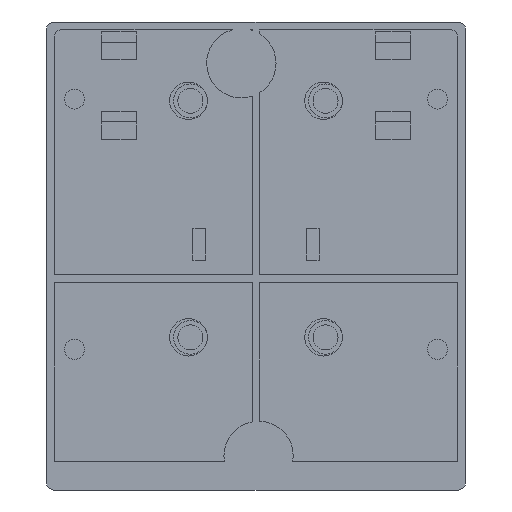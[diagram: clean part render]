
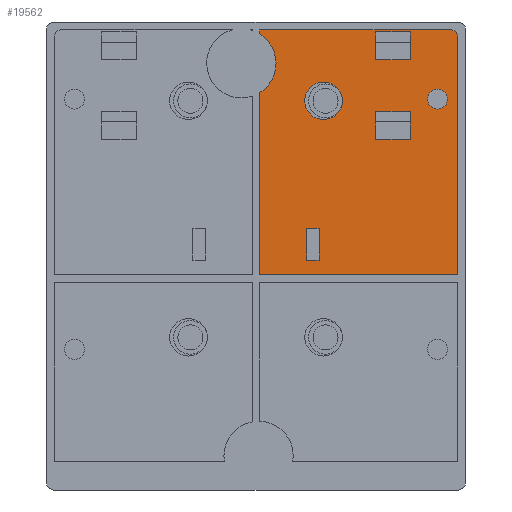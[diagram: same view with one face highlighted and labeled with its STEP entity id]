
A CAD part, front view. The second image highlights one B-rep face of the part: STEP entity #19562.
In plain terms, the highlighted planar face has unit normal (0, -1, 0).
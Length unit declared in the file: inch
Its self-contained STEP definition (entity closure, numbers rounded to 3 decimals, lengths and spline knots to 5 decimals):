
#1091=FACE_BOUND('',#2894,.T.);
#1092=FACE_BOUND('',#2895,.T.);
#1093=FACE_BOUND('',#2896,.T.);
#1094=FACE_BOUND('',#2897,.T.);
#1095=FACE_BOUND('',#2898,.T.);
#1204=CIRCLE('',#20853,0.06);
#1207=CIRCLE('',#20884,0.15);
#1213=CIRCLE('',#20896,0.277);
#1215=CIRCLE('',#20902,0.08);
#1758=FACE_OUTER_BOUND('',#2893,.T.);
#2893=EDGE_LOOP('',(#13192,#13193,#13194,#13195,#13196,#13197,#13198));
#2894=EDGE_LOOP('',(#13199,#13200,#13201,#13202));
#2895=EDGE_LOOP('',(#13203,#13204,#13205,#13206));
#2896=EDGE_LOOP('',(#13207,#13208,#13209,#13210));
#2897=EDGE_LOOP('',(#13211));
#2898=EDGE_LOOP('',(#13212));
#4116=LINE('',#26976,#6121);
#4121=LINE('',#26990,#6126);
#4123=LINE('',#26994,#6128);
#4125=LINE('',#26998,#6130);
#4127=LINE('',#27001,#6132);
#4129=LINE('',#27006,#6134);
#4132=LINE('',#27011,#6137);
#4134=LINE('',#27015,#6139);
#4135=LINE('',#27017,#6140);
#4145=LINE('',#27038,#6150);
#4148=LINE('',#27043,#6153);
#4150=LINE('',#27047,#6155);
#4151=LINE('',#27049,#6156);
#4186=LINE('',#27136,#6191);
#4187=LINE('',#27137,#6192);
#4188=LINE('',#27139,#6193);
#4189=LINE('',#27140,#6194);
#6121=VECTOR('',#22280,0.3937);
#6126=VECTOR('',#22295,0.3937);
#6128=VECTOR('',#22299,0.3937);
#6130=VECTOR('',#22303,0.3937);
#6132=VECTOR('',#22307,0.3937);
#6134=VECTOR('',#22311,0.3937);
#6137=VECTOR('',#22316,0.3937);
#6139=VECTOR('',#22320,0.3937);
#6140=VECTOR('',#22323,0.3937);
#6150=VECTOR('',#22343,0.3937);
#6153=VECTOR('',#22348,0.3937);
#6155=VECTOR('',#22352,0.3937);
#6156=VECTOR('',#22355,0.3937);
#6191=VECTOR('',#22444,0.3937);
#6192=VECTOR('',#22445,0.3937);
#6193=VECTOR('',#22446,0.3937);
#6194=VECTOR('',#22447,0.3937);
#8138=VERTEX_POINT('',#26969);
#8139=VERTEX_POINT('',#26970);
#8140=VERTEX_POINT('',#26975);
#8143=VERTEX_POINT('',#26987);
#8144=VERTEX_POINT('',#26989);
#8145=VERTEX_POINT('',#26993);
#8146=VERTEX_POINT('',#26997);
#8147=VERTEX_POINT('',#27003);
#8148=VERTEX_POINT('',#27005);
#8149=VERTEX_POINT('',#27009);
#8150=VERTEX_POINT('',#27013);
#8155=VERTEX_POINT('',#27035);
#8156=VERTEX_POINT('',#27037);
#8157=VERTEX_POINT('',#27041);
#8158=VERTEX_POINT('',#27045);
#8167=VERTEX_POINT('',#27083);
#8176=VERTEX_POINT('',#27113);
#8177=VERTEX_POINT('',#27115);
#8183=VERTEX_POINT('',#27135);
#8184=VERTEX_POINT('',#27138);
#8185=VERTEX_POINT('',#27141);
#10070=EDGE_CURVE('',#8138,#8139,#1204,.T.);
#10073=EDGE_CURVE('',#8138,#8140,#4116,.F.);
#10080=EDGE_CURVE('',#8144,#8143,#4121,.T.);
#10082=EDGE_CURVE('',#8145,#8144,#4123,.T.);
#10084=EDGE_CURVE('',#8146,#8145,#4125,.T.);
#10086=EDGE_CURVE('',#8143,#8146,#4127,.T.);
#10088=EDGE_CURVE('',#8148,#8147,#4129,.T.);
#10091=EDGE_CURVE('',#8147,#8149,#4132,.T.);
#10093=EDGE_CURVE('',#8149,#8150,#4134,.T.);
#10094=EDGE_CURVE('',#8150,#8148,#4135,.T.);
#10104=EDGE_CURVE('',#8156,#8155,#4145,.T.);
#10107=EDGE_CURVE('',#8155,#8157,#4148,.T.);
#10109=EDGE_CURVE('',#8157,#8158,#4150,.T.);
#10110=EDGE_CURVE('',#8158,#8156,#4151,.T.);
#10127=EDGE_CURVE('',#8167,#8167,#1207,.T.);
#10144=EDGE_CURVE('',#8176,#8177,#1213,.T.);
#10153=EDGE_CURVE('',#8183,#8139,#4186,.F.);
#10154=EDGE_CURVE('',#8183,#8176,#4187,.T.);
#10155=EDGE_CURVE('',#8177,#8184,#4188,.T.);
#10156=EDGE_CURVE('',#8184,#8140,#4189,.T.);
#10157=EDGE_CURVE('',#8185,#8185,#1215,.T.);
#13192=ORIENTED_EDGE('',*,*,#10070,.T.);
#13193=ORIENTED_EDGE('',*,*,#10153,.F.);
#13194=ORIENTED_EDGE('',*,*,#10154,.T.);
#13195=ORIENTED_EDGE('',*,*,#10144,.T.);
#13196=ORIENTED_EDGE('',*,*,#10155,.T.);
#13197=ORIENTED_EDGE('',*,*,#10156,.T.);
#13198=ORIENTED_EDGE('',*,*,#10073,.F.);
#13199=ORIENTED_EDGE('',*,*,#10080,.T.);
#13200=ORIENTED_EDGE('',*,*,#10086,.T.);
#13201=ORIENTED_EDGE('',*,*,#10084,.T.);
#13202=ORIENTED_EDGE('',*,*,#10082,.T.);
#13203=ORIENTED_EDGE('',*,*,#10088,.T.);
#13204=ORIENTED_EDGE('',*,*,#10091,.T.);
#13205=ORIENTED_EDGE('',*,*,#10093,.T.);
#13206=ORIENTED_EDGE('',*,*,#10094,.T.);
#13207=ORIENTED_EDGE('',*,*,#10104,.T.);
#13208=ORIENTED_EDGE('',*,*,#10107,.T.);
#13209=ORIENTED_EDGE('',*,*,#10109,.T.);
#13210=ORIENTED_EDGE('',*,*,#10110,.T.);
#13211=ORIENTED_EDGE('',*,*,#10127,.T.);
#13212=ORIENTED_EDGE('',*,*,#10157,.T.);
#18871=PLANE('',#20901);
#19562=ADVANCED_FACE('',(#1758,#1091,#1092,#1093,#1094,#1095),#18871,.F.);
#20853=AXIS2_PLACEMENT_3D('',#26971,#22274,#22275);
#20884=AXIS2_PLACEMENT_3D('',#27084,#22390,#22391);
#20896=AXIS2_PLACEMENT_3D('',#27117,#22425,#22426);
#20901=AXIS2_PLACEMENT_3D('',#27134,#22442,#22443);
#20902=AXIS2_PLACEMENT_3D('',#27142,#22448,#22449);
#22274=DIRECTION('center_axis',(0.,-1.,0.));
#22275=DIRECTION('ref_axis',(0.707,0.,0.707));
#22280=DIRECTION('',(0.,0.,1.));
#22295=DIRECTION('',(0.,0.,1.));
#22299=DIRECTION('',(-1.,0.,0.));
#22303=DIRECTION('',(0.,0.,-1.));
#22307=DIRECTION('',(1.,0.,0.));
#22311=DIRECTION('',(1.,0.,0.));
#22316=DIRECTION('',(0.,0.,-1.));
#22320=DIRECTION('',(-1.,0.,0.));
#22323=DIRECTION('',(0.,0.,1.));
#22343=DIRECTION('',(0.,0.,1.));
#22348=DIRECTION('',(1.,0.,0.));
#22352=DIRECTION('',(0.,0.,-1.));
#22355=DIRECTION('',(-1.,0.,0.));
#22390=DIRECTION('center_axis',(0.,1.,0.));
#22391=DIRECTION('ref_axis',(-1.,0.,0.));
#22425=DIRECTION('center_axis',(0.,1.,0.));
#22426=DIRECTION('ref_axis',(-1.,0.,0.));
#22442=DIRECTION('center_axis',(0.,1.,0.));
#22443=DIRECTION('ref_axis',(0.,0.,1.));
#22444=DIRECTION('',(-1.,0.,0.));
#22445=DIRECTION('',(0.,0.,-1.));
#22446=DIRECTION('',(0.,0.,-1.));
#22447=DIRECTION('',(1.,0.,0.));
#22448=DIRECTION('center_axis',(0.,1.,0.));
#22449=DIRECTION('ref_axis',(-1.,0.,0.));
#26969=CARTESIAN_POINT('',(1.6125,0.2175,2.3025));
#26970=CARTESIAN_POINT('',(1.5525,0.2175,2.3625));
#26971=CARTESIAN_POINT('Origin',(1.5525,0.2175,2.3025));
#26975=CARTESIAN_POINT('',(1.6125,0.2175,0.40414));
#26976=CARTESIAN_POINT('',(1.6125,0.2175,1.2125));
#26987=CARTESIAN_POINT('',(0.9575,0.2175,1.70864));
#26989=CARTESIAN_POINT('',(0.9575,0.2175,1.48664));
#26990=CARTESIAN_POINT('',(0.9575,0.2175,0.74332));
#26993=CARTESIAN_POINT('',(1.2325,0.2175,1.48664));
#26994=CARTESIAN_POINT('',(0.61625,0.2175,1.48664));
#26997=CARTESIAN_POINT('',(1.2325,0.2175,1.70864));
#26998=CARTESIAN_POINT('',(1.2325,0.2175,0.85432));
#27001=CARTESIAN_POINT('',(0.47875,0.2175,1.70864));
#27003=CARTESIAN_POINT('',(1.2325,0.2175,2.34564));
#27005=CARTESIAN_POINT('',(0.9575,0.2175,2.34564));
#27006=CARTESIAN_POINT('',(0.47875,0.2175,2.34564));
#27009=CARTESIAN_POINT('',(1.2325,0.2175,2.12364));
#27011=CARTESIAN_POINT('',(1.2325,0.2175,1.17282));
#27013=CARTESIAN_POINT('',(0.9575,0.2175,2.12364));
#27015=CARTESIAN_POINT('',(0.61625,0.2175,2.12364));
#27017=CARTESIAN_POINT('',(0.9575,0.2175,1.06182));
#27035=CARTESIAN_POINT('',(0.404,0.2175,0.77264));
#27037=CARTESIAN_POINT('',(0.404,0.2175,0.52264));
#27038=CARTESIAN_POINT('',(0.404,0.2175,0.26132));
#27041=CARTESIAN_POINT('',(0.504,0.2175,0.77264));
#27043=CARTESIAN_POINT('',(0.202,0.2175,0.77264));
#27045=CARTESIAN_POINT('',(0.504,0.2175,0.52264));
#27047=CARTESIAN_POINT('',(0.504,0.2175,0.38632));
#27049=CARTESIAN_POINT('',(0.252,0.2175,0.52264));
#27083=CARTESIAN_POINT('',(0.69,0.2175,1.7955));
#27084=CARTESIAN_POINT('Origin',(0.54,0.2175,1.7955));
#27113=CARTESIAN_POINT('',(0.02875,0.2175,2.33055));
#27115=CARTESIAN_POINT('',(0.02875,0.2175,1.85945));
#27117=CARTESIAN_POINT('Origin',(-0.117,0.2175,2.095));
#27134=CARTESIAN_POINT('Origin',(0.,0.2175,0.));
#27135=CARTESIAN_POINT('',(0.02875,0.2175,2.3625));
#27136=CARTESIAN_POINT('',(-0.8375,0.2175,2.3625));
#27137=CARTESIAN_POINT('',(0.02875,0.2175,0.20207));
#27138=CARTESIAN_POINT('',(0.02875,0.2175,0.40414));
#27139=CARTESIAN_POINT('',(0.02875,0.2175,0.20207));
#27140=CARTESIAN_POINT('',(0.80625,0.2175,0.40414));
#27141=CARTESIAN_POINT('',(1.53,0.2175,1.809));
#27142=CARTESIAN_POINT('Origin',(1.45,0.2175,1.809));
